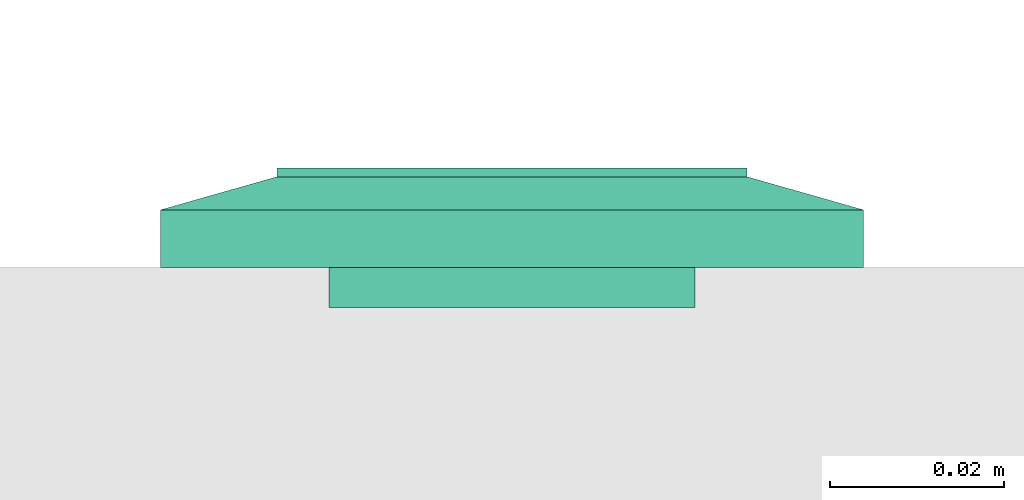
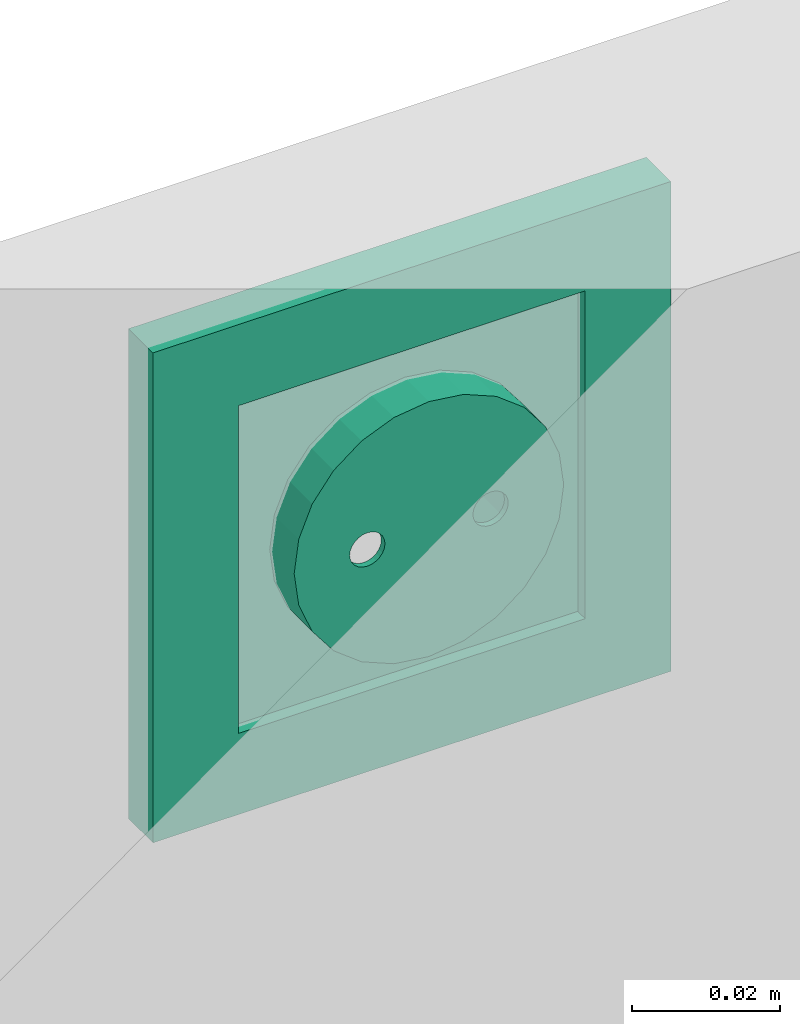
# One storey, part 97 of 153: 1 flow terminal.
"""IFC2X3 building model written with IfcOpenShell, lengths in metres."""

from ifc_helpers import new_model, entity, si_unit, converted_unit, derived_unit, direction, frame, origin, place, context, subcontext, project, spatial, face_set, surface_model, source, transform, mapped, type_object, type_shapes, element, save


model = new_model("IFC2X3")

# Units and contexts
model_context = context("Model", 3, precision=1e-05, world=origin(), true_north=direction((6.12303176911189e-17, 1.0)))
body_context = subcontext(model_context, "Body", "Model", "MODEL_VIEW")
ifc_project = project(units=[si_unit("LENGTHUNIT", "METRE"), si_unit("AREAUNIT", "SQUARE_METRE"), si_unit("VOLUMEUNIT", "CUBIC_METRE"), converted_unit("PLANEANGLEUNIT", "DEGREE", entity("IfcRatioMeasure", 0.0174532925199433), si_unit("PLANEANGLEUNIT", "RADIAN"), dimensions=[0, 0, 0, 0, 0, 0, 0]), si_unit("MASSUNIT", "GRAM", prefix="KILO"), derived_unit("MASSDENSITYUNIT", [(si_unit("MASSUNIT", "GRAM", prefix="KILO"), 1), (si_unit("LENGTHUNIT", "METRE"), -3)]), si_unit("TIMEUNIT", "SECOND"), si_unit("FREQUENCYUNIT", "HERTZ"), si_unit("THERMODYNAMICTEMPERATUREUNIT", "DEGREE_CELSIUS"), derived_unit("THERMALTRANSMITTANCEUNIT", [(si_unit("MASSUNIT", "GRAM", prefix="KILO"), 1), (si_unit("THERMODYNAMICTEMPERATUREUNIT", "KELVIN"), -1), (si_unit("TIMEUNIT", "SECOND"), -3)]), derived_unit("VOLUMETRICFLOWRATEUNIT", [(si_unit("LENGTHUNIT", "METRE"), 3), (si_unit("TIMEUNIT", "SECOND"), -1)]), si_unit("ELECTRICCURRENTUNIT", "AMPERE"), si_unit("ELECTRICVOLTAGEUNIT", "VOLT"), si_unit("POWERUNIT", "WATT"), si_unit("FORCEUNIT", "NEWTON"), si_unit("ILLUMINANCEUNIT", "LUX"), si_unit("LUMINOUSFLUXUNIT", "LUMEN"), si_unit("LUMINOUSINTENSITYUNIT", "CANDELA"), derived_unit("USERDEFINED", [(si_unit("MASSUNIT", "GRAM", prefix="KILO"), -1), (si_unit("LENGTHUNIT", "METRE"), -2), (si_unit("TIMEUNIT", "SECOND"), 3), (si_unit("LUMINOUSFLUXUNIT", "LUMEN"), 1)]), derived_unit("LINEARVELOCITYUNIT", [(si_unit("LENGTHUNIT", "METRE"), 1), (si_unit("TIMEUNIT", "SECOND"), -1)]), si_unit("PRESSUREUNIT", "PASCAL"), derived_unit("USERDEFINED", [(si_unit("LENGTHUNIT", "METRE"), -2), (si_unit("MASSUNIT", "GRAM", prefix="KILO"), 1), (si_unit("TIMEUNIT", "SECOND"), -2)])], contexts=[model_context])

# Site, building, storey
site_placement = place(None, origin())
site = spatial("IfcSite", under=ifc_project, at=site_placement, Name="Default", CompositionType="ELEMENT")
building_placement = place(site_placement, origin())
building = spatial("IfcBuilding", under=site, at=building_placement, CompositionType="ELEMENT")
storey_placement = place(building_placement, frame((0.0, 0.0, -4.62)))
storey = spatial("IfcBuildingStorey", under=building, at=storey_placement, Name="S02", CompositionType="ELEMENT", Elevation=-4.62)

# Flow terminal
light_fixture_type = type_object("IfcLightFixtureType", Name="IP20 ONDULEE", PredefinedType="NOTDEFINED")
shared_shape = source(origin(), body_context, "Body", "SurfaceModel", [
    surface_model("IfcFaceBasedSurfaceModel", [(-0.00225000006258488, 0.0127499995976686, 0.00949633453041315), (0.0, 0.0104999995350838, 0.00949633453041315), (0.0, 0.0115376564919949, 0.0101656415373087), (0.0, 0.0139623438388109, 0.0101656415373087), (0.0, 0.0144589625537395, 0.00984531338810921), (0.0, 0.0121178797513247, 0.0102778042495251), (0.0, 0.0133821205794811, 0.0102778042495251), (0.0, 0.0127499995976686, 0.010399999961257), (0.0, 0.0149999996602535, 0.00949633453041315), (0.00225000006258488, 0.0127499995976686, 0.00949633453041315), (0.0, 0.0110410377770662, 0.00984531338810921), (0.0, 0.0127499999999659, 0.00949633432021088), (0.00225000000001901, 0.0127499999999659, 0.00949633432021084), (0.00217333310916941, 0.0121676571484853, 0.00949633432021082), (0.00194855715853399, 0.0116249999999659, 0.00949633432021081), (0.00159099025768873, 0.0111590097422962, 0.00949633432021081), (0.001125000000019, 0.010801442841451, 0.00949633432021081), (0.00058234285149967, 0.0105766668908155, 0.00949633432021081), (0.0, 0.0104999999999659, 0.00949633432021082), (-0.000582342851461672, 0.0105766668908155, 0.00949633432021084), (-0.001124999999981, 0.010801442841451, 0.00949633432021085), (-0.00159099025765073, 0.0111590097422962, 0.00949633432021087), (-0.00194855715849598, 0.011624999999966, 0.00949633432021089), (-0.0021733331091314, 0.0121676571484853, 0.00949633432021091), (-0.00224999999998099, 0.012749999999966, 0.00949633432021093), (-0.00217333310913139, 0.0133323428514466, 0.00949633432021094), (-0.00194855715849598, 0.013874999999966, 0.00949633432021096), (-0.00159099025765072, 0.0143409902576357, 0.00949633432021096), (-0.00112499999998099, 0.0146985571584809, 0.00949633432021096), (-0.00058234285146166, 0.0149233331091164, 0.00949633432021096), (0.0, 0.0149999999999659, 0.00949633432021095), (0.000582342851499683, 0.0149233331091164, 0.00949633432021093), (0.00112500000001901, 0.0146985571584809, 0.00949633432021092), (0.00159099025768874, 0.0143409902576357, 0.00949633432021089), (0.001948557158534, 0.0138749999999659, 0.00949633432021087), (0.00217333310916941, 0.0133323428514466, 0.00949633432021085), (0.00225000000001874, 0.0127499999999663, -0.00360000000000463), (0.00217333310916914, 0.0121676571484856, -0.00360000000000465), (0.00194855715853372, 0.0116249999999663, -0.00360000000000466), (0.00159099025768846, 0.0111590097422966, -0.00360000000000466), (0.00112500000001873, 0.0108014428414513, -0.00360000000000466), (0.000582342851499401, 0.0105766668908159, -0.00360000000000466), (0.0, 0.0104999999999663, -0.00360000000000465), (-0.000582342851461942, 0.0105766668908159, -0.00360000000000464), (-0.00112499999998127, 0.0108014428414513, -0.00360000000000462), (-0.001590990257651, 0.0111590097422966, -0.0036000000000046), (-0.00194855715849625, 0.0116249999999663, -0.00360000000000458), (-0.00217333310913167, 0.0121676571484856, -0.00360000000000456), (-0.00224999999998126, 0.0127499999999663, -0.00360000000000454), (-0.00217333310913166, 0.013332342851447, -0.00360000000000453), (-0.00194855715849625, 0.0138749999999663, -0.00360000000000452), (-0.00159099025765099, 0.014340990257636, -0.00360000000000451), (-0.00112499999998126, 0.0146985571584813, -0.00360000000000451), (-0.000582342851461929, 0.0149233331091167, -0.00360000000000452), (0.0, 0.0149999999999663, -0.00360000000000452), (0.000582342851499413, 0.0149233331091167, -0.00360000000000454), (0.00112500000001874, 0.0146985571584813, -0.00360000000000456), (0.00159099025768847, 0.014340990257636, -0.00360000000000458), (0.00194855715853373, 0.0138749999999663, -0.0036000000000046), (0.00217333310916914, 0.013332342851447, -0.00360000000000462), (0.0270000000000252, 0.026999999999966, 0.0113999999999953), (-0.0269999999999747, 0.026999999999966, 0.0113999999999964), (-0.0269999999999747, -0.0270000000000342, 0.0113999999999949), (0.0270000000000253, -0.0270000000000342, 0.0113999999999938), (-0.0199999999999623, 0.0, 0.0113999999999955), (-0.0193185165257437, -0.00517638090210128, 0.0113999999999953), (-0.0173205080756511, -0.0100000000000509, 0.0113999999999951), (-0.0141421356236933, -0.0141421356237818, 0.011399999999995), (-0.00999999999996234, -0.0173205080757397, 0.0113999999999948), (-0.00517638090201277, -0.0193185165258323, 0.0113999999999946), (0.0, -0.0200000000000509, 0.0113999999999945), (0.00517638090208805, -0.0193185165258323, 0.0113999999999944), (0.0100000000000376, -0.0173205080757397, 0.0113999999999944), (0.0141421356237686, -0.0141421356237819, 0.0113999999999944), (0.0173205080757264, -0.010000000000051, 0.0113999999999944), (0.0193185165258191, -0.00517638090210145, 0.0113999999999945), (0.0200000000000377, 0.0, 0.0113999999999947), (0.0193185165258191, 0.00517638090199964, 0.0113999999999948), (0.0173205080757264, 0.0099999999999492, 0.011399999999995), (0.0141421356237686, 0.0141421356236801, 0.0113999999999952), (0.0100000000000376, 0.0173205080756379, 0.0113999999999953), (0.00517638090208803, 0.0193185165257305, 0.0113999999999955), (0.0, 0.0199999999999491, 0.0113999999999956), (-0.00517638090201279, 0.0193185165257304, 0.0113999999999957), (-0.00999999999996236, 0.0173205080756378, 0.0113999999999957), (-0.0141421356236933, 0.01414213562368, 0.0113999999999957), (-0.0173205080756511, 0.00999999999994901, 0.0113999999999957), (-0.0193185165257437, 0.00517638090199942, 0.0113999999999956), (0.0270000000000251, 0.0269999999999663, 0.00199999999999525), (0.0270000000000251, -0.0270000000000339, 0.00199999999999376), (-0.0269999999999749, -0.0270000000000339, 0.00199999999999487), (-0.0269999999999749, 0.0269999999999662, 0.00199999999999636), (0.0210000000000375, 0.0, 0.00199999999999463), (0.0202844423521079, -0.00543519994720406, 0.00199999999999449), (0.0181865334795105, -0.0105000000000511, 0.0019999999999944), (0.0148492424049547, -0.0148492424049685, 0.00199999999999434), (0.0105000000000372, -0.0181865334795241, 0.00199999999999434), (0.0054351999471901, -0.0202844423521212, 0.00199999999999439), (0.0, -0.0210000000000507, 0.00199999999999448), (-0.00543519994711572, -0.020284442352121, 0.00199999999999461), (-0.0104999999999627, -0.0181865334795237, 0.00199999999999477), (-0.0148492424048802, -0.014849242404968, 0.00199999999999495), (-0.0181865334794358, -0.0105000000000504, 0.00199999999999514), (-0.020284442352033, -0.00543519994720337, 0.00199999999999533), (-0.0209999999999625, 0.0, 0.00199999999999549), (-0.0202844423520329, 0.0054351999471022, 0.00199999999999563), (-0.0181865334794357, 0.0104999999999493, 0.00199999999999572), (-0.01484924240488, 0.0148492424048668, 0.00199999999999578), (-0.0104999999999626, 0.0181865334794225, 0.00199999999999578), (-0.00543519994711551, 0.0202844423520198, 0.00199999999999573), (0.0, 0.0209999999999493, 0.00199999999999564), (0.00543519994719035, 0.0202844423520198, 0.00199999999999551), (0.0105000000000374, 0.0181865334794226, 0.00199999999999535), (0.0148492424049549, 0.0148492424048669, 0.00199999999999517), (0.0181865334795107, 0.0104999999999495, 0.00199999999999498), (0.0202844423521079, 0.00543519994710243, 0.00199999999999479), (0.0200000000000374, 0.0, -0.00360000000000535), (0.0193185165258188, -0.00517638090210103, -0.00360000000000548), (0.0173205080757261, -0.0100000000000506, -0.00360000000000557), (0.0141421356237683, -0.0141421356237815, -0.00360000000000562), (0.0100000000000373, -0.0173205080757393, -0.00360000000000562), (0.00517638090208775, -0.0193185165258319, -0.00360000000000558), (0.0, -0.0200000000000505, -0.00360000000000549), (-0.00517638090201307, -0.0193185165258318, -0.00360000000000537), (-0.00999999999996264, -0.0173205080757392, -0.00360000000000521), (-0.0141421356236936, -0.0141421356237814, -0.00360000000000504), (-0.0173205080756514, -0.0100000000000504, -0.00360000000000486), (-0.019318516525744, -0.00517638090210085, -0.00360000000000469), (-0.0199999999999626, 0.0, -0.00360000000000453), (-0.0193185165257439, 0.00517638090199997, -0.0036000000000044), (-0.0173205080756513, 0.00999999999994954, -0.00360000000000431), (-0.0141421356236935, 0.0141421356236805, -0.00360000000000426), (-0.00999999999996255, 0.0173205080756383, -0.00360000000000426), (-0.00517638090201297, 0.0193185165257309, -0.0036000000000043), (0.0, 0.0199999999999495, -0.00360000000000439), (0.00517638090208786, 0.0193185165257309, -0.00360000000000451), (0.0100000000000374, 0.0173205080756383, -0.00360000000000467), (0.0141421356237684, 0.0141421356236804, -0.00360000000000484), (0.0173205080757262, 0.0099999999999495, -0.00360000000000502), (0.0193185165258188, 0.00517638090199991, -0.00360000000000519), (-0.0123499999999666, 0.0, -0.00360000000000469), (-0.0122562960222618, -0.000711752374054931, -0.00360000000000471), (-0.0119815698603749, -0.00137500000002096, -0.00360000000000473), (-0.0115445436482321, -0.00194454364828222, -0.00360000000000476), (-0.0109749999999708, -0.00238156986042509, -0.00360000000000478), (-0.0103117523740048, -0.00265629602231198, -0.0036000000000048), (-0.00959999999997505, -0.00275000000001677, -0.00360000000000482), (-0.0088882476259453, -0.00265629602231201, -0.00360000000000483), (-0.00822499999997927, -0.00238156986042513, -0.00360000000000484), (-0.00765545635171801, -0.00194454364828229, -0.00360000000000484), (-0.00721843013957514, -0.00137500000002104, -0.00360000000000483), (-0.00694370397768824, -0.000711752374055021, -0.00360000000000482), (-0.00684999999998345, 0.0, -0.0036000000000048), (-0.00694370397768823, 0.000711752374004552, -0.00360000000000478), (-0.00721843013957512, 0.00137499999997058, -0.00360000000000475), (-0.00765545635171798, 0.00194454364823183, -0.00360000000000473), (-0.00822499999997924, 0.00238156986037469, -0.0036000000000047), (-0.00888824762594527, 0.00265629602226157, -0.00360000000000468), (-0.00959999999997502, 0.00274999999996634, -0.00360000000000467), (-0.0103117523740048, 0.00265629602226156, -0.00360000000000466), (-0.0109749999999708, 0.00238156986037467, -0.00360000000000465), (-0.011544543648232, 0.00194454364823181, -0.00360000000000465), (-0.0119815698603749, 0.00137499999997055, -0.00360000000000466), (-0.0122562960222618, 0.000711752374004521, -0.00360000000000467), (0.00685000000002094, 0.0, -0.00360000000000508), (0.0069437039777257, -0.00071175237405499, -0.0036000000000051), (0.00721843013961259, -0.00137500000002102, -0.00360000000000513), (0.00765545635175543, -0.00194454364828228, -0.00360000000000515), (0.00822500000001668, -0.00238156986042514, -0.00360000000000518), (0.00888824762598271, -0.00265629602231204, -0.0036000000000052), (0.00960000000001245, -0.00275000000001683, -0.00360000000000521), (0.0103117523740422, -0.00265629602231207, -0.00360000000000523), (0.0109750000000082, -0.00238156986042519, -0.00360000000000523), (0.0115445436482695, -0.00194454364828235, -0.00360000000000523), (0.0119815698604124, -0.0013750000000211, -0.00360000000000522), (0.0122562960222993, -0.00071175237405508, -0.00360000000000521), (0.012350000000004, 0.0, -0.00360000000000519), (0.0122562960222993, 0.000711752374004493, -0.00360000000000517), (0.0119815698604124, 0.00137499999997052, -0.00360000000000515), (0.0115445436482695, 0.00194454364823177, -0.00360000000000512), (0.0109750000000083, 0.00238156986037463, -0.0036000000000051), (0.0103117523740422, 0.00265629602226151, -0.00360000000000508), (0.00960000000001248, 0.00274999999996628, -0.00360000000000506), (0.00888824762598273, 0.0026562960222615, -0.00360000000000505), (0.0082250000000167, 0.00238156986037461, -0.00360000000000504), (0.00765545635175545, 0.00194454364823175, -0.00360000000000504), (0.0072184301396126, 0.00137499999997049, -0.00360000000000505), (0.00694370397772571, 0.000711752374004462, -0.00360000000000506), (0.0210000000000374, 0.0, -0.00460000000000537), (0.0202844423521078, -0.00543519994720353, -0.00460000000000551), (0.0181865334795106, -0.0105000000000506, -0.0046000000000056), (0.0148492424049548, -0.0148492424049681, -0.00460000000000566), (0.0105000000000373, -0.0181865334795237, -0.00460000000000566), (0.00543519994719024, -0.0202844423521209, -0.00460000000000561), (0.0, -0.0210000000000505, -0.00460000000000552), (-0.00543519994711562, -0.0202844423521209, -0.00460000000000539), (-0.0104999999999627, -0.0181865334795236, -0.00460000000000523), (-0.0148492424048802, -0.0148492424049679, -0.00460000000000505), (-0.0181865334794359, -0.0105000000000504, -0.00460000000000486), (-0.0202844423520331, -0.00543519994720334, -0.00460000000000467), (-0.0209999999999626, 0.0, -0.00460000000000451), (-0.020284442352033, 0.00543519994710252, -0.00460000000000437), (-0.0181865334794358, 0.0104999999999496, -0.00460000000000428), (-0.0148492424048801, 0.0148492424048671, -0.00460000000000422), (-0.0104999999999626, 0.0181865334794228, -0.00460000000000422), (-0.00543519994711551, 0.02028444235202, -0.00460000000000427), (0.0, 0.0209999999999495, -0.00460000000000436), (0.00543519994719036, 0.02028444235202, -0.00460000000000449), (0.0105000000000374, 0.0181865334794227, -0.00460000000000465), (0.0148492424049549, 0.014849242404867, -0.00460000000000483), (0.0181865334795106, 0.0104999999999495, -0.00460000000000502), (0.0202844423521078, 0.00543519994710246, -0.00460000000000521), (-0.00684999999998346, 0.0, -0.0046000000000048), (-0.00694370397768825, 0.000711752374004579, -0.00460000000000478), (-0.00721843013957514, 0.00137499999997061, -0.00460000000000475), (-0.007655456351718, 0.00194454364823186, -0.00460000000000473), (-0.00822499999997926, 0.00238156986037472, -0.0046000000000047), (-0.00888824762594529, 0.0026562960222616, -0.00460000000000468), (-0.00959999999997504, 0.00274999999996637, -0.00460000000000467), (-0.0103117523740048, 0.00265629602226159, -0.00460000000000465), (-0.0109749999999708, 0.0023815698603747, -0.00460000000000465), (-0.0115445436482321, 0.00194454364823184, -0.00460000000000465), (-0.0119815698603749, 0.00137499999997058, -0.00460000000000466), (-0.0122562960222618, 0.000711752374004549, -0.00460000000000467), (-0.0123499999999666, 0.0, -0.00460000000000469), (-0.0122562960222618, -0.000711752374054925, -0.00460000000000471), (-0.0119815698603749, -0.00137500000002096, -0.00460000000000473), (-0.0115445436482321, -0.00194454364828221, -0.00460000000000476), (-0.0109749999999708, -0.00238156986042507, -0.00460000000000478), (-0.0103117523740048, -0.00265629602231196, -0.0046000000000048), (-0.00959999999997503, -0.00275000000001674, -0.00460000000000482), (-0.00888824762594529, -0.00265629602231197, -0.00460000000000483), (-0.00822499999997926, -0.00238156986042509, -0.00460000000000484), (-0.007655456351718, -0.00194454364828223, -0.00460000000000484), (-0.00721843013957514, -0.00137500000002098, -0.00460000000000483), (-0.00694370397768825, -0.000711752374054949, -0.00460000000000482), (0.012350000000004, 0.0, -0.00460000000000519), (0.0122562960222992, 0.000711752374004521, -0.00460000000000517), (0.0119815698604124, 0.00137499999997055, -0.00460000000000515), (0.0115445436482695, 0.0019445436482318, -0.00460000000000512), (0.0109750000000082, 0.00238156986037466, -0.0046000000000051), (0.0103117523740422, 0.00265629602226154, -0.00460000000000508), (0.00960000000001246, 0.00274999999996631, -0.00460000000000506), (0.00888824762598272, 0.00265629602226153, -0.00460000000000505), (0.00822500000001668, 0.00238156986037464, -0.00460000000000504), (0.00765545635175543, 0.00194454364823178, -0.00460000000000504), (0.00721843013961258, 0.00137499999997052, -0.00460000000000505), (0.00694370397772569, 0.00071175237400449, -0.00460000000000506), (0.00685000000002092, 0.0, -0.00460000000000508), (0.00694370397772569, -0.000711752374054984, -0.0046000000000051), (0.00721843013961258, -0.00137500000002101, -0.00460000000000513), (0.00765545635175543, -0.00194454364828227, -0.00460000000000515), (0.00822500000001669, -0.00238156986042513, -0.00460000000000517), (0.00888824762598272, -0.00265629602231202, -0.0046000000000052), (0.00960000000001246, -0.0027500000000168, -0.00460000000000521), (0.0103117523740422, -0.00265629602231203, -0.00460000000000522), (0.0109750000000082, -0.00238156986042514, -0.00460000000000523), (0.0115445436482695, -0.00194454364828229, -0.00460000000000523), (0.0119815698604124, -0.00137500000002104, -0.00460000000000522), (0.0122562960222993, -0.000711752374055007, -0.00460000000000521), (0.040350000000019, 0.0403499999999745, 0.00659999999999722), (0.040350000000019, -0.0403500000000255, 0.00659999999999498), (-0.0403499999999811, -0.0403500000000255, 0.00659999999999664), (-0.0403499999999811, 0.0403499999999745, 0.00659999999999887), (0.027000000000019, 0.0269999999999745, 0.00659999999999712), (-0.0269999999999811, 0.0269999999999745, 0.00659999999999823), (-0.026999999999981, -0.0270000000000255, 0.00659999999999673), (0.027000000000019, -0.0270000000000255, 0.00659999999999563), (0.027000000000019, 0.0269999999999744, 0.0103999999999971), (-0.026999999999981, 0.0269999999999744, 0.0103999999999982), (-0.026999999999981, -0.0270000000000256, 0.0103999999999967), (0.027000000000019, -0.0270000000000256, 0.0103999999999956), (0.040350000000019, 0.0403499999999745, 0.00659999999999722), (0.040350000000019, -0.0403500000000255, 0.00659999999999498), (-0.0403499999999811, -0.0403500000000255, 0.00659999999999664), (-0.0403499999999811, 0.0403499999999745, 0.00659999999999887), (-0.0269999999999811, 0.0269999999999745, 0.00659999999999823), (-0.0269999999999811, -0.0270000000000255, 0.00659999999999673), (0.0270000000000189, -0.0270000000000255, 0.00659999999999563), (0.0270000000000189, 0.0269999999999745, 0.00659999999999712), (0.0403500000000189, 0.0403499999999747, 0.0), (0.0403500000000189, -0.0403500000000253, 0.0), (-0.0403499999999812, -0.0403500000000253, 0.0), (-0.0403499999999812, 0.0403499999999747, 0.0), (0.0270000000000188, 0.0269999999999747, 0.0), (-0.0269999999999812, 0.0269999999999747, 0.0), (-0.0269999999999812, -0.0270000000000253, 0.0), (0.0270000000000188, -0.0270000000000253, 0.0)], [face_set([[[0, 1, 2]], [[3, 4, 2, 5]], [[6, 3, 5, 7]], [[2, 4, 0]], [[4, 8, 0]], [[3, 9, 8]], [[1, 9, 10]], [[2, 3, 6, 7]], [[3, 10, 9]], [[2, 10, 3]], [[11, 1, 0, 8]], [[11, 8, 9, 1]]]), face_set([[[12, 13, 14, 15, 16, 17, 18, 19, 20, 21, 22, 23, 24, 25, 26, 27, 28, 29, 30, 31, 32, 33, 34, 35]], [[36, 37, 38, 39, 40, 41, 42, 43, 44, 45, 46, 47, 48, 49, 50, 51, 52, 53, 54, 55, 56, 57, 58, 59]], [[48, 47, 23, 24]], [[47, 46, 22, 23]], [[45, 44, 20, 21]], [[46, 45, 21, 22]], [[44, 43, 19, 20]], [[18, 19, 43, 42]], [[42, 41, 17, 18]], [[41, 40, 16, 17]], [[39, 38, 14, 15]], [[40, 39, 15, 16]], [[38, 37, 13, 14]], [[12, 13, 37, 36]], [[36, 59, 35, 12]], [[59, 58, 34, 35]], [[57, 56, 32, 33]], [[58, 57, 33, 34]], [[56, 55, 31, 32]], [[30, 31, 55, 54]], [[54, 53, 29, 30]], [[53, 52, 28, 29]], [[51, 50, 26, 27]], [[52, 51, 27, 28]], [[50, 49, 25, 26]], [[24, 25, 49, 48]]]), face_set([[[60, 61, 62, 63], [64, 65, 66, 67, 68, 69, 70, 71, 72, 73, 74, 75, 76, 77, 78, 79, 80, 81, 82, 83, 84, 85, 86, 87]], [[88, 89, 90, 91], [92, 93, 94, 95, 96, 97, 98, 99, 100, 101, 102, 103, 104, 105, 106, 107, 108, 109, 110, 111, 112, 113, 114, 115]], [[61, 60, 88, 91]], [[62, 61, 91, 90]], [[63, 62, 90, 89]], [[60, 63, 89, 88]], [[116, 117, 118, 119, 120, 121, 122, 123, 124, 125, 126, 127, 128, 129, 130, 131, 132, 133, 134, 135, 136, 137, 138, 139], [140, 141, 142, 143, 144, 145, 146, 147, 148, 149, 150, 151, 152, 153, 154, 155, 156, 157, 158, 159, 160, 161, 162, 163], [164, 165, 166, 167, 168, 169, 170, 171, 172, 173, 174, 175, 176, 177, 178, 179, 180, 181, 182, 183, 184, 185, 186, 187]], [[64, 128, 127, 65]], [[65, 127, 126, 66]], [[67, 125, 124, 68]], [[66, 126, 125, 67]], [[68, 124, 123, 69]], [[122, 70, 69, 123]], [[70, 122, 121, 71]], [[71, 121, 120, 72]], [[73, 119, 118, 74]], [[72, 120, 119, 73]], [[74, 118, 117, 75]], [[116, 76, 75, 117]], [[76, 116, 139, 77]], [[77, 139, 138, 78]], [[79, 137, 136, 80]], [[78, 138, 137, 79]], [[80, 136, 135, 81]], [[134, 82, 81, 135]], [[82, 134, 133, 83]], [[83, 133, 132, 84]], [[84, 132, 131, 85]], [[85, 131, 130, 86]], [[130, 129, 87, 86]], [[64, 87, 129, 128]], [[188, 189, 190, 191, 192, 193, 194, 195, 196, 197, 198, 199, 200, 201, 202, 203, 204, 205, 206, 207, 208, 209, 210, 211], [212, 213, 214, 215, 216, 217, 218, 219, 220, 221, 222, 223, 224, 225, 226, 227, 228, 229, 230, 231, 232, 233, 234, 235], [236, 237, 238, 239, 240, 241, 242, 243, 244, 245, 246, 247, 248, 249, 250, 251, 252, 253, 254, 255, 256, 257, 258, 259]], [[200, 199, 103, 104]], [[199, 198, 102, 103]], [[197, 196, 100, 101]], [[198, 197, 101, 102]], [[196, 195, 99, 100]], [[98, 99, 195, 194]], [[194, 193, 97, 98]], [[193, 192, 96, 97]], [[191, 190, 94, 95]], [[192, 191, 95, 96]], [[190, 189, 93, 94]], [[92, 93, 189, 188]], [[188, 211, 115, 92]], [[211, 210, 114, 115]], [[209, 208, 112, 113]], [[210, 209, 113, 114]], [[208, 207, 111, 112]], [[110, 111, 207, 206]], [[206, 205, 109, 110]], [[205, 204, 108, 109]], [[203, 202, 106, 107]], [[204, 203, 107, 108]], [[202, 201, 105, 106]], [[104, 105, 201, 200]], [[141, 225, 226, 142]], [[140, 224, 225, 141]], [[144, 228, 229, 145]], [[143, 227, 228, 144]], [[142, 226, 227, 143]], [[230, 146, 145, 229]], [[149, 233, 232, 148]], [[148, 232, 231, 147]], [[152, 212, 235, 151]], [[151, 235, 234, 150]], [[150, 234, 233, 149]], [[146, 230, 231, 147]], [[154, 214, 213, 153]], [[153, 213, 212, 152]], [[157, 217, 216, 156]], [[156, 216, 215, 155]], [[155, 215, 214, 154]], [[218, 158, 157, 217]], [[160, 220, 221, 161]], [[159, 219, 220, 160]], [[163, 223, 224, 140]], [[162, 222, 223, 163]], [[161, 221, 222, 162]], [[158, 218, 219, 159]], [[166, 250, 249, 165]], [[165, 249, 248, 164]], [[169, 253, 252, 168]], [[168, 252, 251, 167]], [[167, 251, 250, 166]], [[254, 170, 169, 253]], [[172, 256, 257, 173]], [[171, 255, 256, 172]], [[175, 259, 236, 176]], [[174, 258, 259, 175]], [[173, 257, 258, 174]], [[170, 254, 255, 171]], [[177, 237, 238, 178]], [[176, 236, 237, 177]], [[180, 240, 241, 181]], [[179, 239, 240, 180]], [[178, 238, 239, 179]], [[242, 182, 181, 241]], [[185, 245, 244, 184]], [[184, 244, 243, 183]], [[164, 248, 247, 187]], [[187, 247, 246, 186]], [[186, 246, 245, 185]], [[182, 242, 243, 183]]]), face_set([[[260, 261, 262, 263], [264, 265, 266, 267]], [[260, 268, 269, 263]], [[263, 269, 270, 262]], [[262, 270, 271, 261]], [[261, 271, 268, 260]], [[264, 265, 269, 268]], [[265, 266, 270, 269]], [[266, 267, 271, 270]], [[268, 271, 267, 264]]]), face_set([[[272, 273, 274, 275], [276, 277, 278, 279]], [[280, 281, 282, 283], [284, 285, 286, 287]], [[275, 272, 280, 283]], [[274, 275, 283, 282]], [[273, 274, 282, 281]], [[272, 273, 281, 280]], [[284, 285, 276, 279]], [[285, 286, 277, 276]], [[286, 287, 278, 277]], [[279, 278, 287, 284]]])]),
])
type_shapes(light_fixture_type, [shared_shape])
flow_terminal_placement = place(building_placement, frame((55.8748816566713, -189.113069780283, -4.18699999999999), z_axis=(0.0, 1.0, 0.0), x_axis=(-1.0, 0.0, 0.0)))
element("IfcFlowTerminal", 1, at=flow_terminal_placement, inside=storey, type_object=light_fixture_type, Name="INT Prise de courant:IP20 ONDULEE", ObjectType="INT Prise de courant:IP20 ONDULEE", context=body_context, shape_type="MappedRepresentation", body=[
    mapped(shared_shape, transform((0.0, 0.0, 0.0), scale=1.0)),
])

save(model, "model.ifc")
